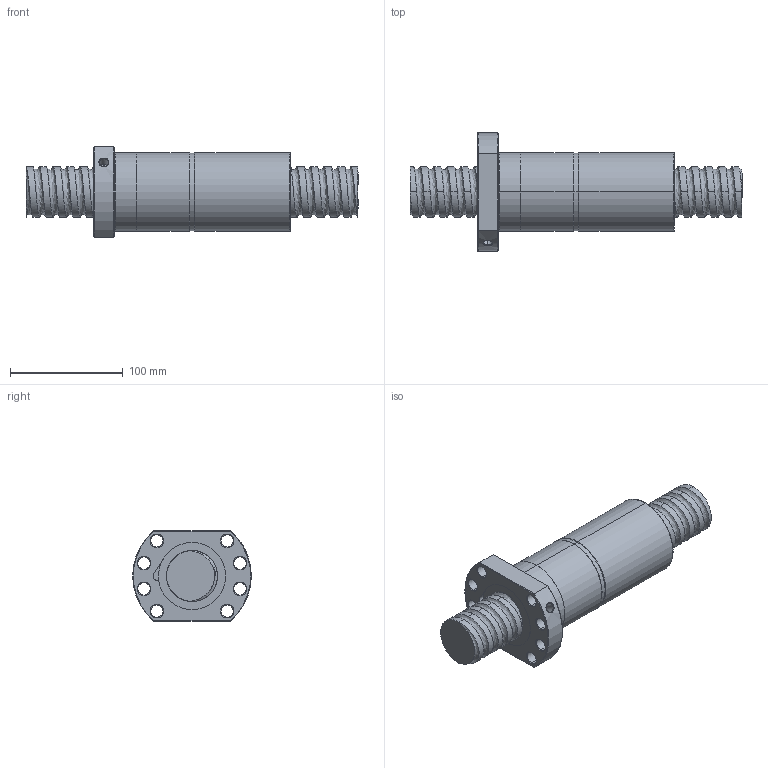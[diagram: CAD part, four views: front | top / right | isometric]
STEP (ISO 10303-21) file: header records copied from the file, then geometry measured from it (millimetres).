
FILE_DESCRIPTION (( 'STEP AP214' ), '1' );
FILE_NAME ('FDDC04512T5-F-C.STEP', '2010-07-07T02:11:27', ( 'XPAUTO' ), ( 'XPAUTO' ), 'SwSTEP 2.0', 'SolidWorks 2007', '' );
FILE_SCHEMA (( 'AUTOMOTIVE_DESIGN' ));
Length unit declared in the file: millimetre
Products named in the file (3): FDDC04512T5-F-C.sldasm-Part-2_預設; FDDC04512T5-F-C; FDDC04512T5-F-C.sldasm-Part-1_預設
Assembly tree (2 placements, depth 2):
  FDDC04512T5-F-C
    FDDC04512T5-F-C.sldasm-Part-1_預設
    FDDC04512T5-F-C.sldasm-Part-2_預設
Bounding box: 294 x 105 x 80 mm (x, y, z)
Volume: 867668.5 mm3; surface area: 131886.1 mm2
Topology: 2 solids, 2 shells, 163 faces, 407 edges, 253 vertices
Faces by surface type: cylinder 94, cone 32, plane 22, torus 10, bspline 5
Entity records: 47139 total; most frequent: CARTESIAN_POINT 43296, ORIENTED_EDGE 814, DIRECTION 741, EDGE_CURVE 407, AXIS2_PLACEMENT_3D 299, VERTEX_POINT 253, EDGE_LOOP 188, FACE_OUTER_BOUND 163
